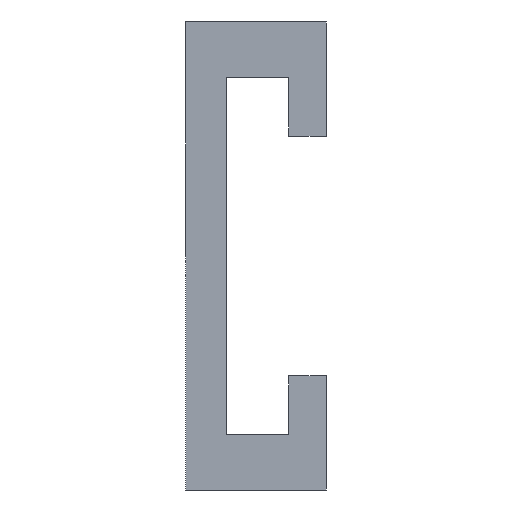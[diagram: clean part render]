
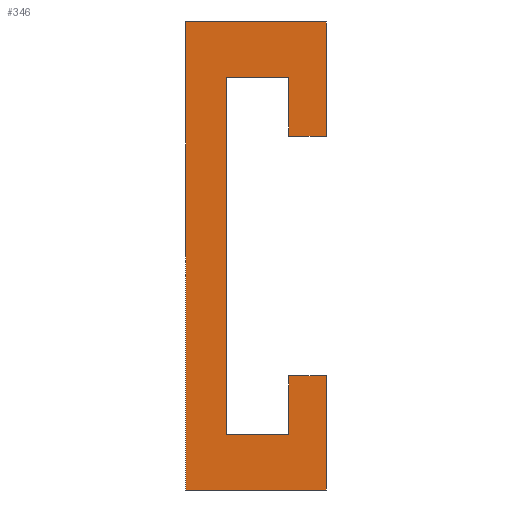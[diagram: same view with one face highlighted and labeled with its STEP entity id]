
A CAD part, left-side view. The second image highlights one B-rep face of the part: STEP entity #346.
In plain terms, the highlighted planar face has unit normal (-1, 0, 0).
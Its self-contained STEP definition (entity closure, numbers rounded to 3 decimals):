
#7 = CARTESIAN_POINT ( 'NONE',  ( 0., 0., 20. ) ) ;
#14 = VERTEX_POINT ( 'NONE', #305 ) ;
#21 = CARTESIAN_POINT ( 'NONE',  ( 0., -3.5, 15.25 ) ) ;
#22 = DIRECTION ( 'NONE',  ( 0., 0., -1. ) ) ;
#23 = CARTESIAN_POINT ( 'NONE',  ( 0., -8.8, -15.25 ) ) ;
#25 = CARTESIAN_POINT ( 'NONE',  ( 0., -3.5, -15.25 ) ) ;
#27 = ORIENTED_EDGE ( 'NONE', *, *, #46, .F. ) ;
#28 = CARTESIAN_POINT ( 'NONE',  ( 0., 0., -20. ) ) ;
#31 = CARTESIAN_POINT ( 'NONE',  ( 0., -8.8, 10.25 ) ) ;
#34 = CARTESIAN_POINT ( 'NONE',  ( 0., -12., 10.25 ) ) ;
#37 = VERTEX_POINT ( 'NONE', #245 ) ;
#40 = ORIENTED_EDGE ( 'NONE', *, *, #430, .F. ) ;
#44 = DIRECTION ( 'NONE',  ( 0., 1., 0. ) ) ;
#45 = CARTESIAN_POINT ( 'NONE',  ( 0., 0., -20. ) ) ;
#46 = EDGE_CURVE ( 'NONE', #286, #252, #139, .T. ) ;
#54 = VERTEX_POINT ( 'NONE', #61 ) ;
#58 = VECTOR ( 'NONE', #114, 1000. ) ;
#61 = CARTESIAN_POINT ( 'NONE',  ( 0., -12., -10.25 ) ) ;
#65 = CARTESIAN_POINT ( 'NONE',  ( 0., -12., -20. ) ) ;
#67 = DIRECTION ( 'NONE',  ( 0., -1., 0. ) ) ;
#70 = DIRECTION ( 'NONE',  ( 0., 1., 0. ) ) ;
#83 = EDGE_CURVE ( 'NONE', #37, #286, #247, .T. ) ;
#86 = CARTESIAN_POINT ( 'NONE',  ( 0., -12., -20. ) ) ;
#88 = LINE ( 'NONE', #178, #195 ) ;
#98 = ORIENTED_EDGE ( 'NONE', *, *, #83, .F. ) ;
#101 = EDGE_CURVE ( 'NONE', #54, #186, #320, .T. ) ;
#107 = ORIENTED_EDGE ( 'NONE', *, *, #414, .F. ) ;
#111 = VECTOR ( 'NONE', #329, 1000. ) ;
#114 = DIRECTION ( 'NONE',  ( 0., 1., 0. ) ) ;
#120 = ORIENTED_EDGE ( 'NONE', *, *, #358, .F. ) ;
#128 = ORIENTED_EDGE ( 'NONE', *, *, #202, .F. ) ;
#130 = ORIENTED_EDGE ( 'NONE', *, *, #145, .F. ) ;
#131 = VECTOR ( 'NONE', #22, 1000. ) ;
#137 = DIRECTION ( 'NONE',  ( 0., 0., 1. ) ) ;
#139 = LINE ( 'NONE', #451, #131 ) ;
#145 = EDGE_CURVE ( 'NONE', #252, #225, #332, .T. ) ;
#154 = VECTOR ( 'NONE', #221, 1000. ) ;
#155 = VERTEX_POINT ( 'NONE', #350 ) ;
#162 = DIRECTION ( 'NONE',  ( 0., 0., 1. ) ) ;
#167 = VECTOR ( 'NONE', #349, 1000. ) ;
#178 = CARTESIAN_POINT ( 'NONE',  ( 0., -12., -10.25 ) ) ;
#181 = CARTESIAN_POINT ( 'NONE',  ( 0., 0., 20. ) ) ;
#183 = FACE_OUTER_BOUND ( 'NONE', #187, .T. ) ;
#186 = VERTEX_POINT ( 'NONE', #65 ) ;
#187 = EDGE_LOOP ( 'NONE', ( #445, #128, #236, #338, #238, #378, #130, #27, #98, #40, #107, #120 ) ) ;
#195 = VECTOR ( 'NONE', #67, 1000. ) ;
#202 = EDGE_CURVE ( 'NONE', #353, #207, #293, .T. ) ;
#207 = VERTEX_POINT ( 'NONE', #181 ) ;
#221 = DIRECTION ( 'NONE',  ( 0., 0., -1. ) ) ;
#225 = VERTEX_POINT ( 'NONE', #23 ) ;
#227 = PLANE ( 'NONE',  #334 ) ;
#236 = ORIENTED_EDGE ( 'NONE', *, *, #280, .F. ) ;
#238 = ORIENTED_EDGE ( 'NONE', *, *, #268, .F. ) ;
#242 = VECTOR ( 'NONE', #137, 1000. ) ;
#244 = CARTESIAN_POINT ( 'NONE',  ( 0., -12., 20. ) ) ;
#245 = CARTESIAN_POINT ( 'NONE',  ( 0., -8.8, 15.25 ) ) ;
#247 = LINE ( 'NONE', #359, #394 ) ;
#252 = VERTEX_POINT ( 'NONE', #25 ) ;
#257 = CARTESIAN_POINT ( 'NONE',  ( 0., -8.8, -15.25 ) ) ;
#264 = VECTOR ( 'NONE', #299, 1000. ) ;
#268 = EDGE_CURVE ( 'NONE', #269, #54, #88, .T. ) ;
#269 = VERTEX_POINT ( 'NONE', #312 ) ;
#270 = LINE ( 'NONE', #28, #283 ) ;
#280 = EDGE_CURVE ( 'NONE', #186, #353, #270, .T. ) ;
#283 = VECTOR ( 'NONE', #70, 1000. ) ;
#286 = VERTEX_POINT ( 'NONE', #21 ) ;
#293 = LINE ( 'NONE', #345, #242 ) ;
#295 = VERTEX_POINT ( 'NONE', #244 ) ;
#297 = DIRECTION ( 'NONE',  ( 0., 0., -1. ) ) ;
#299 = DIRECTION ( 'NONE',  ( 0., 0., 1. ) ) ;
#301 = CARTESIAN_POINT ( 'NONE',  ( 0., -8.8, -10.25 ) ) ;
#305 = CARTESIAN_POINT ( 'NONE',  ( 0., -8.8, 10.25 ) ) ;
#312 = CARTESIAN_POINT ( 'NONE',  ( 0., -8.8, -10.25 ) ) ;
#316 = EDGE_CURVE ( 'NONE', #207, #295, #362, .T. ) ;
#320 = LINE ( 'NONE', #86, #154 ) ;
#325 = CARTESIAN_POINT ( 'NONE',  ( 0., -12., 20. ) ) ;
#329 = DIRECTION ( 'NONE',  ( 0., -1., 0. ) ) ;
#332 = LINE ( 'NONE', #257, #167 ) ;
#334 = AXIS2_PLACEMENT_3D ( 'NONE', #433, #360, #297 ) ;
#338 = ORIENTED_EDGE ( 'NONE', *, *, #101, .F. ) ;
#341 = LINE ( 'NONE', #301, #264 ) ;
#345 = CARTESIAN_POINT ( 'NONE',  ( 0., 0., -20. ) ) ;
#346 = ADVANCED_FACE ( 'NONE', ( #183 ), #227, .F. ) ;
#349 = DIRECTION ( 'NONE',  ( 0., -1., 0. ) ) ;
#350 = CARTESIAN_POINT ( 'NONE',  ( 0., -12., 10.25 ) ) ;
#353 = VERTEX_POINT ( 'NONE', #45 ) ;
#358 = EDGE_CURVE ( 'NONE', #295, #155, #442, .T. ) ;
#359 = CARTESIAN_POINT ( 'NONE',  ( 0., -8.8, 15.25 ) ) ;
#360 = DIRECTION ( 'NONE',  ( 1., 0., 0. ) ) ;
#362 = LINE ( 'NONE', #7, #111 ) ;
#378 = ORIENTED_EDGE ( 'NONE', *, *, #404, .F. ) ;
#394 = VECTOR ( 'NONE', #44, 1000. ) ;
#404 = EDGE_CURVE ( 'NONE', #225, #269, #341, .T. ) ;
#414 = EDGE_CURVE ( 'NONE', #155, #14, #446, .T. ) ;
#421 = LINE ( 'NONE', #31, #440 ) ;
#428 = DIRECTION ( 'NONE',  ( 0., 0., -1. ) ) ;
#430 = EDGE_CURVE ( 'NONE', #14, #37, #421, .T. ) ;
#433 = CARTESIAN_POINT ( 'NONE',  ( 0., 0., 0. ) ) ;
#440 = VECTOR ( 'NONE', #162, 1000. ) ;
#442 = LINE ( 'NONE', #325, #444 ) ;
#444 = VECTOR ( 'NONE', #428, 1000. ) ;
#445 = ORIENTED_EDGE ( 'NONE', *, *, #316, .F. ) ;
#446 = LINE ( 'NONE', #34, #58 ) ;
#451 = CARTESIAN_POINT ( 'NONE',  ( 0., -3.5, 15.25 ) ) ;
